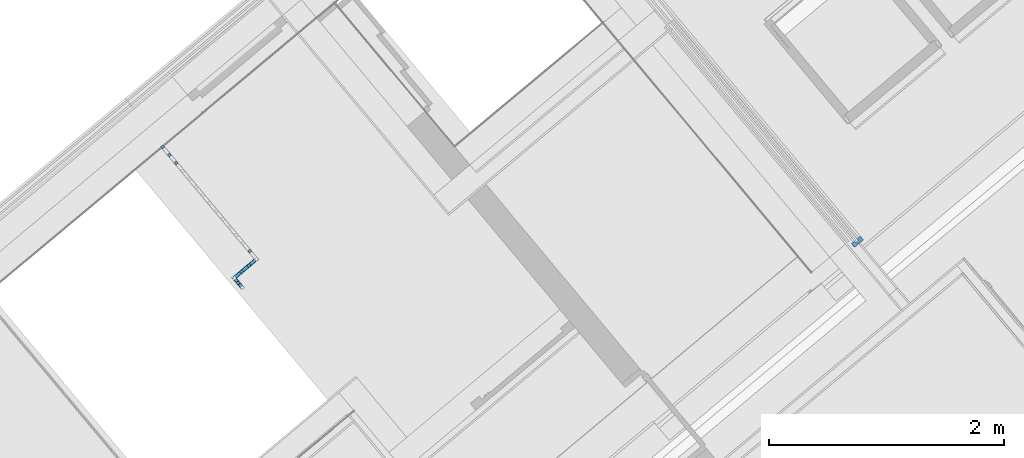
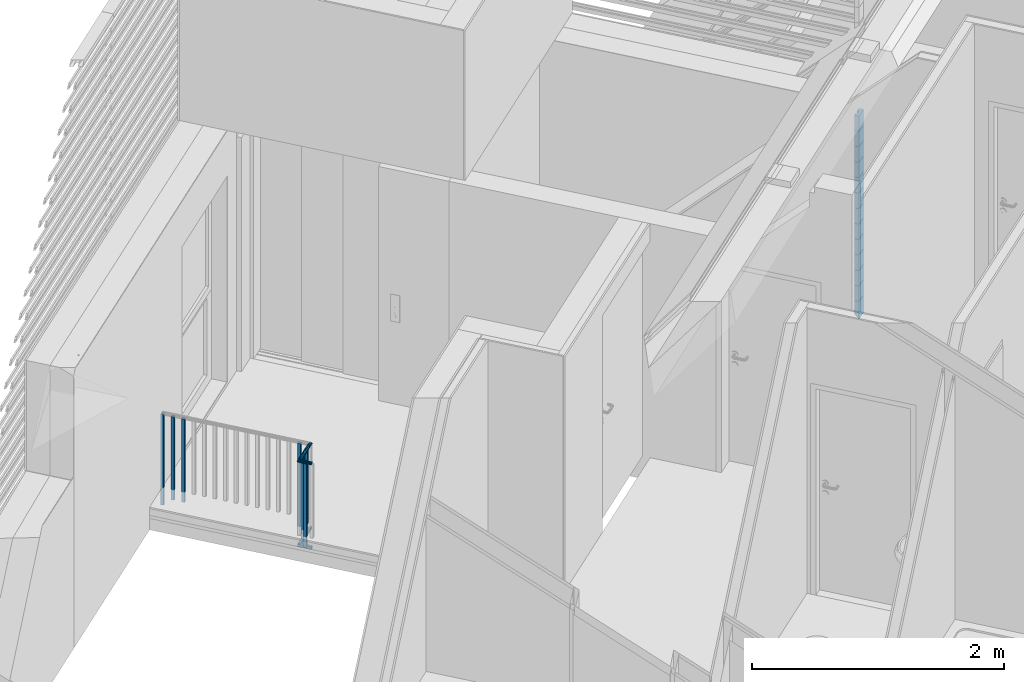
# One storey, part 40 of 47: 24 building element parts, 2 elements without a shape of their own.
"""IFC4 building model written with IfcOpenShell, lengths in metres."""

from ifc_helpers import new_model, entity, si_unit, converted_unit, derived_unit, direction, frame, origin_with_axes, place, context, subcontext, project, spatial, polygons, material, type_object, element, aggregate, save


model = new_model("IFC4")

# Units and contexts
model_context = context("Model", 3, precision=1e-05, world=origin_with_axes(), true_north=direction((0.0, 1.0)))
body_context = subcontext(model_context, "Body", "Model", "MODEL_VIEW")
ifc_project = project(units=[si_unit("LENGTHUNIT", "METRE"), si_unit("AREAUNIT", "SQUARE_METRE"), si_unit("VOLUMEUNIT", "CUBIC_METRE"), converted_unit("PLANEANGLEUNIT", "DEGREE", entity("IfcPlaneAngleMeasure", 0.0174532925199), si_unit("PLANEANGLEUNIT", "RADIAN"), dimensions=[0, 0, 0, 0, 0, 0, 0]), converted_unit("TIMEUNIT", "Year", entity("IfcTimeMeasure", 31556926.0), si_unit("TIMEUNIT", "SECOND"), dimensions=[0, 0, 1, 0, 0, 0, 0]), si_unit("MASSUNIT", "GRAM", prefix="KILO"), si_unit("THERMODYNAMICTEMPERATUREUNIT", "DEGREE_CELSIUS"), si_unit("LUMINOUSINTENSITYUNIT", "LUMEN"), si_unit("ENERGYUNIT", "JOULE", prefix="MEGA"), derived_unit("THERMALCONDUCTANCEUNIT", [(si_unit("POWERUNIT", "WATT"), 1), (si_unit("LENGTHUNIT", "METRE"), -1), (si_unit("THERMODYNAMICTEMPERATUREUNIT", "KELVIN"), -1)]), derived_unit("SPECIFICHEATCAPACITYUNIT", [(si_unit("ENERGYUNIT", "JOULE"), 1), (si_unit("MASSUNIT", "GRAM", prefix="KILO"), -1), (si_unit("THERMODYNAMICTEMPERATUREUNIT", "KELVIN"), -1)]), derived_unit("MASSDENSITYUNIT", [(si_unit("MASSUNIT", "GRAM", prefix="KILO"), 1), (si_unit("VOLUMEUNIT", "CUBIC_METRE"), -1)])], contexts=[model_context])

# Site, building, storey
site_placement = place(None, frame((-0.00153261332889, -0.00661245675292, 0.0), z_axis=(0.0, 0.0, 1.0), x_axis=(1.0, 0.0, 0.0)))
site = spatial("IfcSite", under=ifc_project, at=site_placement, Name="Site", CompositionType="ELEMENT")
building_placement = place(site_placement, origin_with_axes())
building = spatial("IfcBuilding", under=site, at=building_placement, Name="Building", CompositionType="ELEMENT")
storey_placement = place(building_placement, frame((0.0, 0.0, 8.66), z_axis=(0.0, 0.0, 1.0), x_axis=(1.0, 0.0, 0.0)))
storey = spatial("IfcBuildingStorey", under=building, at=storey_placement, Name="DG2", CompositionType="ELEMENT", Elevation=8.66)

# Curtain wall, building element parts
curtain_wall_type = type_object("IfcCurtainWallType", Name="Fassadentyp", PredefinedType="NOTDEFINED")
curtain_wall_placement = place(storey_placement, frame((3.22758193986, 25.8519152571, 0.32), z_axis=(0.0, 0.0, 1.0), x_axis=(1.0, 0.0, 0.0)))
curtain_wall = element("IfcCurtainWall", 1, at=curtain_wall_placement, inside=storey, type_object=curtain_wall_type, Name="Fassade-001", PredefinedType="NOTDEFINED")
ifc_material_1 = material(Name="Blech")
building_element_part_1_placement = place(curtain_wall_placement, origin_with_axes())
building_element_part_1 = element("IfcBuildingElementPart", 2, at=building_element_part_1_placement, material=ifc_material_1, Name="Blech", PredefinedType="NOTDEFINED", context=body_context, shape_type="Tessellation", body=[
    polygons([(1.55485923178, -1.88503623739, 0.15), (1.54203854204, -1.86968599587, 0.15), (1.51517561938, -1.8921222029, 0.15), (1.54081699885, -1.92282268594, 0.15), (1.61756820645, -1.85871923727, 0.15), (1.59192682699, -1.82801875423, 0.15), (1.56506390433, -1.85045496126, 0.15), (1.57788459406, -1.86580520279, 0.15), (1.55485923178, -1.88503623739, 0.0), (1.54203854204, -1.86968599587, 0.02), (1.51517561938, -1.8921222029, 0.02), (1.54081699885, -1.92282268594, -0.02), (1.61756820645, -1.85871923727, -0.02), (1.59192682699, -1.82801875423, 0.02), (1.56506390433, -1.85045496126, 0.02), (1.57788459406, -1.86580520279, 0.0)], [[[1, 2, 3, 4, 5, 6, 7, 8]], [[1, 9, 10, 2]], [[10, 11, 3, 2]], [[3, 11, 12, 4]], [[4, 12, 13, 5]], [[5, 13, 14, 6]], [[7, 6, 14, 15]], [[15, 16, 8, 7]], [[8, 16, 9, 1]], [[9, 16, 15, 14, 13, 12, 11, 10]]], closed=True),
])
building_element_part_2_placement = place(curtain_wall_placement, origin_with_axes())
building_element_part_2 = element("IfcBuildingElementPart", 3, at=building_element_part_2_placement, material=ifc_material_1, Name="Blech", PredefinedType="NOTDEFINED", context=body_context, shape_type="Tessellation", body=[
    polygons([(1.55485923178, -1.88503623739, 0.3), (1.54203854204, -1.86968599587, 0.3), (1.51517561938, -1.8921222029, 0.3), (1.54081699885, -1.92282268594, 0.3), (1.61756820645, -1.85871923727, 0.3), (1.59192682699, -1.82801875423, 0.3), (1.56506390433, -1.85045496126, 0.3), (1.57788459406, -1.86580520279, 0.3), (1.55485923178, -1.88503623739, 0.15), (1.54203854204, -1.86968599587, 0.15), (1.51517561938, -1.8921222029, 0.15), (1.54081699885, -1.92282268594, 0.15), (1.61756820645, -1.85871923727, 0.15), (1.59192682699, -1.82801875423, 0.15), (1.56506390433, -1.85045496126, 0.15), (1.57788459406, -1.86580520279, 0.15)], [[[1, 2, 3, 4, 5, 6, 7, 8]], [[1, 9, 10, 2]], [[10, 11, 3, 2]], [[11, 12, 4, 3]], [[12, 13, 5, 4]], [[13, 14, 6, 5]], [[7, 6, 14, 15]], [[15, 16, 8, 7]], [[8, 16, 9, 1]], [[9, 16, 15, 14, 13, 12, 11, 10]]], closed=True),
])
building_element_part_3_placement = place(curtain_wall_placement, origin_with_axes())
building_element_part_3 = element("IfcBuildingElementPart", 4, at=building_element_part_3_placement, material=ifc_material_1, Name="Blech", PredefinedType="NOTDEFINED", context=body_context, shape_type="Tessellation", body=[
    polygons([(1.55485923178, -1.88503623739, 0.45), (1.54203854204, -1.86968599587, 0.45), (1.51517561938, -1.8921222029, 0.45), (1.54081699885, -1.92282268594, 0.45), (1.61756820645, -1.85871923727, 0.45), (1.59192682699, -1.82801875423, 0.45), (1.56506390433, -1.85045496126, 0.45), (1.57788459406, -1.86580520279, 0.45), (1.55485923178, -1.88503623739, 0.3), (1.54203854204, -1.86968599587, 0.3), (1.51517561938, -1.8921222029, 0.3), (1.54081699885, -1.92282268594, 0.3), (1.61756820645, -1.85871923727, 0.3), (1.59192682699, -1.82801875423, 0.3), (1.56506390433, -1.85045496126, 0.3), (1.57788459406, -1.86580520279, 0.3)], [[[1, 2, 3, 4, 5, 6, 7, 8]], [[1, 9, 10, 2]], [[10, 11, 3, 2]], [[11, 12, 4, 3]], [[12, 13, 5, 4]], [[13, 14, 6, 5]], [[7, 6, 14, 15]], [[15, 16, 8, 7]], [[8, 16, 9, 1]], [[9, 16, 15, 14, 13, 12, 11, 10]]], closed=True),
])
building_element_part_4_placement = place(curtain_wall_placement, origin_with_axes())
building_element_part_4 = element("IfcBuildingElementPart", 5, at=building_element_part_4_placement, material=ifc_material_1, Name="Blech", PredefinedType="NOTDEFINED", context=body_context, shape_type="Tessellation", body=[
    polygons([(1.55485923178, -1.88503623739, 0.6), (1.54203854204, -1.86968599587, 0.6), (1.51517561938, -1.8921222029, 0.6), (1.54081699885, -1.92282268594, 0.6), (1.61756820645, -1.85871923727, 0.6), (1.59192682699, -1.82801875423, 0.6), (1.56506390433, -1.85045496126, 0.6), (1.57788459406, -1.86580520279, 0.6), (1.55485923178, -1.88503623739, 0.45), (1.54203854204, -1.86968599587, 0.45), (1.51517561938, -1.8921222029, 0.45), (1.54081699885, -1.92282268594, 0.45), (1.61756820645, -1.85871923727, 0.45), (1.59192682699, -1.82801875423, 0.45), (1.56506390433, -1.85045496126, 0.45), (1.57788459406, -1.86580520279, 0.45)], [[[1, 2, 3, 4, 5, 6, 7, 8]], [[1, 9, 10, 2]], [[10, 11, 3, 2]], [[11, 12, 4, 3]], [[12, 13, 5, 4]], [[13, 14, 6, 5]], [[7, 6, 14, 15]], [[15, 16, 8, 7]], [[8, 16, 9, 1]], [[9, 16, 15, 14, 13, 12, 11, 10]]], closed=True),
])
building_element_part_5_placement = place(curtain_wall_placement, origin_with_axes())
building_element_part_5 = element("IfcBuildingElementPart", 6, at=building_element_part_5_placement, material=ifc_material_1, Name="Blech", PredefinedType="NOTDEFINED", context=body_context, shape_type="Tessellation", body=[
    polygons([(1.55485923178, -1.88503623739, 0.75), (1.54203854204, -1.86968599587, 0.75), (1.51517561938, -1.8921222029, 0.75), (1.54081699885, -1.92282268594, 0.75), (1.61756820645, -1.85871923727, 0.75), (1.59192682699, -1.82801875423, 0.75), (1.56506390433, -1.85045496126, 0.75), (1.57788459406, -1.86580520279, 0.75), (1.55485923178, -1.88503623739, 0.6), (1.54203854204, -1.86968599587, 0.6), (1.51517561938, -1.8921222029, 0.6), (1.54081699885, -1.92282268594, 0.6), (1.61756820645, -1.85871923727, 0.6), (1.59192682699, -1.82801875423, 0.6), (1.56506390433, -1.85045496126, 0.6), (1.57788459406, -1.86580520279, 0.6)], [[[1, 2, 3, 4, 5, 6, 7, 8]], [[1, 9, 10, 2]], [[10, 11, 3, 2]], [[11, 12, 4, 3]], [[12, 13, 5, 4]], [[13, 14, 6, 5]], [[7, 6, 14, 15]], [[15, 16, 8, 7]], [[8, 16, 9, 1]], [[9, 16, 15, 14, 13, 12, 11, 10]]], closed=True),
])
building_element_part_6_placement = place(curtain_wall_placement, origin_with_axes())
building_element_part_6 = element("IfcBuildingElementPart", 7, at=building_element_part_6_placement, material=ifc_material_1, Name="Blech", PredefinedType="NOTDEFINED", context=body_context, shape_type="Tessellation", body=[
    polygons([(1.55485923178, -1.88503623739, 0.9), (1.54203854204, -1.86968599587, 0.9), (1.51517561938, -1.8921222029, 0.9), (1.54081699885, -1.92282268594, 0.9), (1.61756820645, -1.85871923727, 0.9), (1.59192682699, -1.82801875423, 0.9), (1.56506390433, -1.85045496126, 0.9), (1.57788459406, -1.86580520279, 0.9), (1.55485923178, -1.88503623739, 0.75), (1.54203854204, -1.86968599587, 0.75), (1.51517561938, -1.8921222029, 0.75), (1.54081699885, -1.92282268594, 0.75), (1.61756820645, -1.85871923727, 0.75), (1.59192682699, -1.82801875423, 0.75), (1.56506390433, -1.85045496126, 0.75), (1.57788459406, -1.86580520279, 0.75)], [[[1, 2, 3, 4, 5, 6, 7, 8]], [[1, 9, 10, 2]], [[10, 11, 3, 2]], [[11, 12, 4, 3]], [[12, 13, 5, 4]], [[13, 14, 6, 5]], [[7, 6, 14, 15]], [[15, 16, 8, 7]], [[8, 16, 9, 1]], [[9, 16, 15, 14, 13, 12, 11, 10]]], closed=True),
])
building_element_part_7_placement = place(curtain_wall_placement, origin_with_axes())
building_element_part_7 = element("IfcBuildingElementPart", 8, at=building_element_part_7_placement, material=ifc_material_1, Name="Blech", PredefinedType="NOTDEFINED", context=body_context, shape_type="Tessellation", body=[
    polygons([(1.55485923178, -1.88503623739, 1.05), (1.54203854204, -1.86968599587, 1.05), (1.51517561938, -1.8921222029, 1.05), (1.54081699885, -1.92282268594, 1.05), (1.61756820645, -1.85871923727, 1.05), (1.59192682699, -1.82801875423, 1.05), (1.56506390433, -1.85045496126, 1.05), (1.57788459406, -1.86580520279, 1.05), (1.55485923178, -1.88503623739, 0.9), (1.54203854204, -1.86968599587, 0.9), (1.51517561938, -1.8921222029, 0.9), (1.54081699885, -1.92282268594, 0.9), (1.61756820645, -1.85871923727, 0.9), (1.59192682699, -1.82801875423, 0.9), (1.56506390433, -1.85045496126, 0.9), (1.57788459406, -1.86580520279, 0.9)], [[[1, 2, 3, 4, 5, 6, 7, 8]], [[1, 9, 10, 2]], [[10, 11, 3, 2]], [[11, 12, 4, 3]], [[12, 13, 5, 4]], [[13, 14, 6, 5]], [[7, 6, 14, 15]], [[15, 16, 8, 7]], [[8, 16, 9, 1]], [[9, 16, 15, 14, 13, 12, 11, 10]]], closed=True),
])
building_element_part_8_placement = place(curtain_wall_placement, origin_with_axes())
building_element_part_8 = element("IfcBuildingElementPart", 9, at=building_element_part_8_placement, material=ifc_material_1, Name="Blech", PredefinedType="NOTDEFINED", context=body_context, shape_type="Tessellation", body=[
    polygons([(1.55485923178, -1.88503623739, 1.2), (1.54203854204, -1.86968599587, 1.2), (1.51517561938, -1.8921222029, 1.2), (1.54081699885, -1.92282268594, 1.2), (1.61756820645, -1.85871923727, 1.2), (1.59192682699, -1.82801875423, 1.2), (1.56506390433, -1.85045496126, 1.2), (1.57788459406, -1.86580520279, 1.2), (1.55485923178, -1.88503623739, 1.05), (1.54203854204, -1.86968599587, 1.05), (1.51517561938, -1.8921222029, 1.05), (1.54081699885, -1.92282268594, 1.05), (1.61756820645, -1.85871923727, 1.05), (1.59192682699, -1.82801875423, 1.05), (1.56506390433, -1.85045496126, 1.05), (1.57788459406, -1.86580520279, 1.05)], [[[1, 2, 3, 4, 5, 6, 7, 8]], [[1, 9, 10, 2]], [[10, 11, 3, 2]], [[11, 12, 4, 3]], [[12, 13, 5, 4]], [[13, 14, 6, 5]], [[7, 6, 14, 15]], [[15, 16, 8, 7]], [[8, 16, 9, 1]], [[9, 16, 15, 14, 13, 12, 11, 10]]], closed=True),
])
building_element_part_9_placement = place(curtain_wall_placement, origin_with_axes())
building_element_part_9 = element("IfcBuildingElementPart", 10, at=building_element_part_9_placement, material=ifc_material_1, Name="Blech", PredefinedType="NOTDEFINED", context=body_context, shape_type="Tessellation", body=[
    polygons([(1.55485923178, -1.88503623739, 1.35), (1.54203854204, -1.86968599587, 1.35), (1.51517561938, -1.8921222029, 1.35), (1.54081699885, -1.92282268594, 1.35), (1.61756820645, -1.85871923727, 1.35), (1.59192682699, -1.82801875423, 1.35), (1.56506390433, -1.85045496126, 1.35), (1.57788459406, -1.86580520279, 1.35), (1.55485923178, -1.88503623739, 1.2), (1.54203854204, -1.86968599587, 1.2), (1.51517561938, -1.8921222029, 1.2), (1.54081699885, -1.92282268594, 1.2), (1.61756820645, -1.85871923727, 1.2), (1.59192682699, -1.82801875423, 1.2), (1.56506390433, -1.85045496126, 1.2), (1.57788459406, -1.86580520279, 1.2)], [[[1, 2, 3, 4, 5, 6, 7, 8]], [[1, 9, 10, 2]], [[10, 11, 3, 2]], [[11, 12, 4, 3]], [[12, 13, 5, 4]], [[13, 14, 6, 5]], [[7, 6, 14, 15]], [[15, 16, 8, 7]], [[8, 16, 9, 1]], [[9, 16, 15, 14, 13, 12, 11, 10]]], closed=True),
])
building_element_part_10_placement = place(curtain_wall_placement, origin_with_axes())
building_element_part_10 = element("IfcBuildingElementPart", 11, at=building_element_part_10_placement, material=ifc_material_1, Name="Blech", PredefinedType="NOTDEFINED", context=body_context, shape_type="Tessellation", body=[
    polygons([(1.55485923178, -1.88503623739, 1.5), (1.54203854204, -1.86968599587, 1.5), (1.51517561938, -1.8921222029, 1.5), (1.54081699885, -1.92282268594, 1.5), (1.61756820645, -1.85871923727, 1.5), (1.59192682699, -1.82801875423, 1.5), (1.56506390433, -1.85045496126, 1.5), (1.57788459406, -1.86580520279, 1.5), (1.55485923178, -1.88503623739, 1.35), (1.54203854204, -1.86968599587, 1.35), (1.51517561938, -1.8921222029, 1.35), (1.54081699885, -1.92282268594, 1.35), (1.61756820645, -1.85871923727, 1.35), (1.59192682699, -1.82801875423, 1.35), (1.56506390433, -1.85045496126, 1.35), (1.57788459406, -1.86580520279, 1.35)], [[[1, 2, 3, 4, 5, 6, 7, 8]], [[1, 9, 10, 2]], [[10, 11, 3, 2]], [[11, 12, 4, 3]], [[12, 13, 5, 4]], [[13, 14, 6, 5]], [[7, 6, 14, 15]], [[15, 16, 8, 7]], [[8, 16, 9, 1]], [[9, 16, 15, 14, 13, 12, 11, 10]]], closed=True),
])
building_element_part_11_placement = place(curtain_wall_placement, origin_with_axes())
building_element_part_11 = element("IfcBuildingElementPart", 12, at=building_element_part_11_placement, material=ifc_material_1, Name="Blech", PredefinedType="NOTDEFINED", context=body_context, shape_type="Tessellation", body=[
    polygons([(1.55485923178, -1.88503623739, 1.65), (1.54203854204, -1.86968599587, 1.65), (1.51517561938, -1.8921222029, 1.65), (1.54081699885, -1.92282268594, 1.65), (1.61756820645, -1.85871923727, 1.65), (1.59192682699, -1.82801875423, 1.65), (1.56506390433, -1.85045496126, 1.65), (1.57788459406, -1.86580520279, 1.65), (1.55485923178, -1.88503623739, 1.5), (1.54203854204, -1.86968599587, 1.5), (1.51517561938, -1.8921222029, 1.5), (1.54081699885, -1.92282268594, 1.5), (1.61756820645, -1.85871923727, 1.5), (1.59192682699, -1.82801875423, 1.5), (1.56506390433, -1.85045496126, 1.5), (1.57788459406, -1.86580520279, 1.5)], [[[1, 2, 3, 4, 5, 6, 7, 8]], [[1, 9, 10, 2]], [[10, 11, 3, 2]], [[11, 12, 4, 3]], [[12, 13, 5, 4]], [[13, 14, 6, 5]], [[7, 6, 14, 15]], [[15, 16, 8, 7]], [[8, 16, 9, 1]], [[9, 16, 15, 14, 13, 12, 11, 10]]], closed=True),
])
building_element_part_12_placement = place(curtain_wall_placement, origin_with_axes())
building_element_part_12 = element("IfcBuildingElementPart", 13, at=building_element_part_12_placement, material=ifc_material_1, Name="Blech", PredefinedType="NOTDEFINED", context=body_context, shape_type="Tessellation", body=[
    polygons([(1.55485923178, -1.88503623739, 1.8), (1.54203854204, -1.86968599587, 1.8), (1.51517561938, -1.8921222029, 1.8), (1.54081699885, -1.92282268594, 1.8), (1.61756820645, -1.85871923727, 1.8), (1.59192682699, -1.82801875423, 1.8), (1.56506390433, -1.85045496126, 1.8), (1.57788459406, -1.86580520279, 1.8), (1.55485923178, -1.88503623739, 1.65), (1.54203854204, -1.86968599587, 1.65), (1.51517561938, -1.8921222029, 1.65), (1.54081699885, -1.92282268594, 1.65), (1.61756820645, -1.85871923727, 1.65), (1.59192682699, -1.82801875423, 1.65), (1.56506390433, -1.85045496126, 1.65), (1.57788459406, -1.86580520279, 1.65)], [[[1, 2, 3, 4, 5, 6, 7, 8]], [[1, 9, 10, 2]], [[10, 11, 3, 2]], [[11, 12, 4, 3]], [[12, 13, 5, 4]], [[13, 14, 6, 5]], [[7, 6, 14, 15]], [[15, 16, 8, 7]], [[8, 16, 9, 1]], [[9, 16, 15, 14, 13, 12, 11, 10]]], closed=True),
])
building_element_part_13_placement = place(curtain_wall_placement, origin_with_axes())
building_element_part_13 = element("IfcBuildingElementPart", 14, at=building_element_part_13_placement, material=ifc_material_1, Name="Blech", PredefinedType="NOTDEFINED", context=body_context, shape_type="Tessellation", body=[
    polygons([(1.55485923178, -1.88503623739, 1.95), (1.54203854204, -1.86968599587, 1.95), (1.51517561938, -1.8921222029, 1.95), (1.54081699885, -1.92282268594, 1.95), (1.61756820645, -1.85871923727, 1.95), (1.59192682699, -1.82801875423, 1.95), (1.56506390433, -1.85045496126, 1.95), (1.57788459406, -1.86580520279, 1.95), (1.55485923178, -1.88503623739, 1.8), (1.54203854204, -1.86968599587, 1.8), (1.51517561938, -1.8921222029, 1.8), (1.54081699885, -1.92282268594, 1.8), (1.61756820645, -1.85871923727, 1.8), (1.59192682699, -1.82801875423, 1.8), (1.56506390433, -1.85045496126, 1.8), (1.57788459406, -1.86580520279, 1.8)], [[[1, 2, 3, 4, 5, 6, 7, 8]], [[1, 9, 10, 2]], [[10, 11, 3, 2]], [[11, 12, 4, 3]], [[12, 13, 5, 4]], [[13, 14, 6, 5]], [[7, 6, 14, 15]], [[15, 16, 8, 7]], [[8, 16, 9, 1]], [[9, 16, 15, 14, 13, 12, 11, 10]]], closed=True),
])
aggregate(curtain_wall, [building_element_part_1, building_element_part_2, building_element_part_3, building_element_part_4, building_element_part_5, building_element_part_6, building_element_part_7, building_element_part_8, building_element_part_9, building_element_part_10, building_element_part_11, building_element_part_12, building_element_part_13])

# Railing, building element parts
railing_type = type_object("IfcRailingType", Name="Geländerart", PredefinedType="NOTDEFINED")
railing_placement = place(storey_placement, frame((-1.1650889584, 24.7530172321, 0.05), z_axis=(0.0, 0.0, 1.0), x_axis=(1.0, 0.0, 0.0)))
railing = element("IfcRailing", 15, at=railing_placement, inside=storey, type_object=railing_type, Name="Geländer - 001", PredefinedType="NOTDEFINED")
ifc_material_2 = material(Name="BEKLEIDUNG")
building_element_part_14_placement = place(railing_placement, origin_with_axes())
building_element_part_14 = element("IfcBuildingElementPart", 16, at=building_element_part_14_placement, material=ifc_material_2, Name="BEKLEIDUNG", PredefinedType="NOTDEFINED", context=body_context, shape_type="Tessellation", body=[
    polygons([(0.0367920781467, 0.0144514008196, 0.0), (0.0559770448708, 0.0304806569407, 0.0), (0.0559770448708, 0.0304806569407, 0.88), (0.0367920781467, 0.0144514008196, 0.88), (0.0207628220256, 0.0336363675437, 0.0), (0.0399477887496, 0.0496656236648, 0.0), (0.0399477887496, 0.0496656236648, 0.88), (0.0207628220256, 0.0336363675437, 0.88)], [[[1, 2, 3, 4]], [[1, 5, 6, 2]], [[2, 6, 7, 3]], [[4, 3, 7, 8]], [[5, 1, 4, 8]], [[6, 5, 8, 7]]], closed=True),
])
building_element_part_15_placement = place(railing_placement, origin_with_axes())
building_element_part_15 = element("IfcBuildingElementPart", 17, at=building_element_part_15_placement, material=ifc_material_2, Name="BEKLEIDUNG", PredefinedType="NOTDEFINED", context=body_context, shape_type="Tessellation", body=[
    polygons([(0.0938886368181, -0.0538858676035, 0.07), (0.113073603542, -0.0378566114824, 0.07), (0.113073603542, -0.0378566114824, 0.8775), (0.0938886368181, -0.0538858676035, 0.8775), (0.077859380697, -0.0347009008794, 0.07), (0.0970443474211, -0.0186716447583, 0.07), (0.0970443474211, -0.0186716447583, 0.8775), (0.077859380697, -0.0347009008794, 0.8775)], [[[1, 2, 3, 4]], [[1, 5, 6, 2]], [[2, 6, 7, 3]], [[4, 3, 7, 8]], [[5, 1, 4, 8]], [[6, 5, 8, 7]]], closed=True),
])
building_element_part_16_placement = place(railing_placement, origin_with_axes())
building_element_part_16 = element("IfcBuildingElementPart", 18, at=building_element_part_16_placement, material=ifc_material_2, Name="BEKLEIDUNG", PredefinedType="NOTDEFINED", context=body_context, shape_type="Tessellation", body=[
    polygons([(0.15098519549, -0.122223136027, 0.07), (0.170170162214, -0.106193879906, 0.07), (0.170170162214, -0.106193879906, 0.8775), (0.15098519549, -0.122223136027, 0.8775), (0.134955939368, -0.103038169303, 0.07), (0.154140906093, -0.0870089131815, 0.07), (0.154140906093, -0.0870089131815, 0.8775), (0.134955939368, -0.103038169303, 0.8775)], [[[1, 2, 3, 4]], [[1, 5, 6, 2]], [[2, 6, 7, 3]], [[4, 3, 7, 8]], [[5, 1, 4, 8]], [[6, 5, 8, 7]]], closed=True),
])
building_element_part_17_placement = place(railing_placement, origin_with_axes())
building_element_part_17 = element("IfcBuildingElementPart", 19, at=building_element_part_17_placement, material=ifc_material_2, Name="BEKLEIDUNG", PredefinedType="NOTDEFINED", context=body_context, shape_type="Tessellation", body=[
    polygons([(0.779047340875, -0.873933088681, 0.07), (0.7982323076, -0.85790383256, 0.07), (0.7982323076, -0.85790383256, 0.8775), (0.779047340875, -0.873933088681, 0.8775), (0.763018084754, -0.854748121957, 0.07), (0.782203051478, -0.838718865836, 0.07), (0.782203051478, -0.838718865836, 0.8775), (0.763018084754, -0.854748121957, 0.8775)], [[[1, 2, 3, 4]], [[1, 5, 6, 2]], [[2, 6, 7, 3]], [[4, 3, 7, 8]], [[5, 1, 4, 8]], [[6, 5, 8, 7]]], closed=True),
])
building_element_part_18_placement = place(railing_placement, origin_with_axes())
building_element_part_18 = element("IfcBuildingElementPart", 20, at=building_element_part_18_placement, material=ifc_material_2, Name="BEKLEIDUNG", PredefinedType="NOTDEFINED", context=body_context, shape_type="Tessellation", body=[
    polygons([(0.858808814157, -0.9265070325, 0.885), (0.858488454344, -0.926479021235, 0.887604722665), (0.668377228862, -1.08671929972, 0.887604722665), (0.668698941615, -1.08674617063, 0.885), (0.858488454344, -0.926479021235, 0.882395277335), (0.857537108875, -0.926395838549, 0.87986969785), (0.855983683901, -0.926260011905, 0.8775), (0.853875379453, -0.926075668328, 0.875358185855), (0.851276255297, -0.925848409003, 0.873509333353), (0.848265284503, -0.925585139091, 0.872009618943), (0.844933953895, -0.925293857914, 0.870904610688), (0.84138348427, -0.924983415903, 0.870227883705), (0.837721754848, -0.924663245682, 0.87), (0.834060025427, -0.924343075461, 0.870227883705), (0.830509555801, -0.92403263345, 0.870904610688), (0.827178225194, -0.923741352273, 0.872009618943), (0.8241672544, -0.92347808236, 0.873509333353), (0.821568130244, -0.923250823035, 0.875358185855), (0.819459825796, -0.923066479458, 0.8775), (0.817906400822, -0.922930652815, 0.87986969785), (0.816955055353, -0.922847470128, 0.882395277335), (0.81663469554, -0.922819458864, 0.885), (0.816955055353, -0.922847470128, 0.887604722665), (0.817906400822, -0.922930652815, 0.89013030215), (0.819459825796, -0.923066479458, 0.8925), (0.821568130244, -0.923250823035, 0.894641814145), (0.8241672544, -0.92347808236, 0.896490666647), (0.827178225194, -0.923741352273, 0.897990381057), (0.830509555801, -0.92403263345, 0.899095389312), (0.834060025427, -0.924343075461, 0.899772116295), (0.837721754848, -0.924663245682, 0.9), (0.84138348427, -0.924983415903, 0.899772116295), (0.844933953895, -0.925293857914, 0.899095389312), (0.848265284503, -0.925585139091, 0.897990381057), (0.851276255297, -0.925848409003, 0.896490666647), (0.853875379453, -0.926075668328, 0.894641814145), (0.855983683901, -0.926260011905, 0.8925), (0.857537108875, -0.926395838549, 0.89013030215), (0.667421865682, -1.08663950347, 0.89013030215), (0.665861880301, -1.08650920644, 0.8925), (0.663744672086, -1.08633236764, 0.894641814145), (0.661134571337, -1.08611436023, 0.896490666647), (0.658110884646, -1.08586180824, 0.897990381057), (0.654765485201, -1.08558238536, 0.899095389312), (0.651200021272, -1.08528458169, 0.899772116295), (0.647522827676, -1.08497744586, 0.9), (0.64384563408, -1.08467031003, 0.899772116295), (0.640280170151, -1.08437250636, 0.899095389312), (0.636934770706, -1.08409308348, 0.897990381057), (0.633911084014, -1.0838405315, 0.896490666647), (0.631300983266, -1.08362252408, 0.894641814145), (0.629183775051, -1.08344568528, 0.8925), (0.62762378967, -1.08331538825, 0.89013030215), (0.62666842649, -1.083235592, 0.887604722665), (0.626346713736, -1.0832087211, 0.885), (0.62666842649, -1.083235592, 0.882395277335), (0.62762378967, -1.08331538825, 0.87986969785), (0.629183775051, -1.08344568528, 0.8775), (0.631300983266, -1.08362252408, 0.875358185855), (0.633911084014, -1.0838405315, 0.873509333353), (0.636934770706, -1.08409308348, 0.872009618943), (0.640280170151, -1.08437250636, 0.870904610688), (0.64384563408, -1.08467031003, 0.870227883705), (0.647522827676, -1.08497744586, 0.87), (0.651200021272, -1.08528458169, 0.870227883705), (0.654765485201, -1.08558238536, 0.870904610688), (0.658110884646, -1.08586180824, 0.872009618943), (0.661134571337, -1.08611436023, 0.873509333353), (0.663744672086, -1.08633236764, 0.875358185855), (0.665861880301, -1.08650920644, 0.8775), (0.667421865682, -1.08663950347, 0.87986969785), (0.668377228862, -1.08671929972, 0.882395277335)], [[[1, 2, 3, 4]], [[1, 5, 6, 7, 8, 9, 10, 11, 12, 13, 14, 15, 16, 17, 18, 19, 20, 21, 22, 23, 24, 25, 26, 27, 28, 29, 30, 31, 32, 33, 34, 35, 36, 37, 38, 2]], [[2, 38, 39, 3]], [[4, 3, 39, 40, 41, 42, 43, 44, 45, 46, 47, 48, 49, 50, 51, 52, 53, 54, 55, 56, 57, 58, 59, 60, 61, 62, 63, 64, 65, 66, 67, 68, 69, 70, 71, 72]], [[5, 1, 4, 72]], [[6, 5, 72, 71]], [[7, 6, 71, 70]], [[8, 7, 70, 69]], [[9, 8, 69, 68]], [[10, 9, 68, 67]], [[11, 10, 67, 66]], [[12, 11, 66, 65]], [[13, 12, 65, 64]], [[14, 13, 64, 63]], [[15, 14, 63, 62]], [[16, 15, 62, 61]], [[17, 16, 61, 60]], [[18, 17, 60, 59]], [[19, 18, 59, 58]], [[20, 19, 58, 57]], [[21, 20, 57, 56]], [[22, 21, 56, 55]], [[23, 22, 55, 54]], [[24, 23, 54, 53]], [[25, 24, 53, 52]], [[26, 25, 52, 51]], [[27, 26, 51, 50]], [[28, 27, 50, 49]], [[29, 28, 49, 48]], [[30, 29, 48, 47]], [[31, 30, 47, 46]], [[32, 31, 46, 45]], [[33, 32, 45, 44]], [[34, 33, 44, 43]], [[35, 34, 43, 42]], [[36, 35, 42, 41]], [[37, 36, 41, 40]], [[38, 37, 40, 39]]], closed=True),
])
building_element_part_19_placement = place(railing_placement, origin_with_axes())
building_element_part_19 = element("IfcBuildingElementPart", 21, at=building_element_part_19_placement, material=ifc_material_2, Name="BEKLEIDUNG", PredefinedType="NOTDEFINED", context=body_context, shape_type="Tessellation", body=[
    polygons([(0.820149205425, -0.923126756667, 0.0825), (0.820149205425, -0.923126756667, 0.0575), (0.62987606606, -1.08350350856, 0.0575), (0.62987606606, -1.08350350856, 0.0825), (0.855294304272, -0.926199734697, 0.0825), (0.855294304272, -0.926199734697, 0.0575), (0.665169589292, -1.08645138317, 0.0575), (0.665169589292, -1.08645138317, 0.0825)], [[[1, 2, 3, 4]], [[1, 5, 6, 2]], [[2, 6, 7, 3]], [[4, 3, 7, 8]], [[5, 1, 4, 8]], [[6, 5, 8, 7]]], closed=True),
])
building_element_part_20_placement = place(railing_placement, origin_with_axes())
building_element_part_20 = element("IfcBuildingElementPart", 22, at=building_element_part_20_placement, material=ifc_material_2, Name="BEKLEIDUNG", PredefinedType="NOTDEFINED", context=body_context, shape_type="Tessellation", body=[
    polygons([(0.756708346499, -0.976599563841, 0.07), (0.77282036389, -0.995715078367, 0.07), (0.77282036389, -0.995715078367, 0.8775), (0.756708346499, -0.976599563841, 0.8775), (0.775823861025, -0.96048754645, 0.07), (0.791935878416, -0.979603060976, 0.07), (0.791935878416, -0.979603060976, 0.8775), (0.775823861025, -0.96048754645, 0.8775)], [[[1, 2, 3, 4]], [[1, 5, 6, 2]], [[2, 6, 7, 3]], [[4, 3, 7, 8]], [[5, 1, 4, 8]], [[6, 5, 8, 7]]], closed=True),
])
building_element_part_21_placement = place(railing_placement, origin_with_axes())
building_element_part_21 = element("IfcBuildingElementPart", 23, at=building_element_part_21_placement, material=ifc_material_2, Name="BEKLEIDUNG", PredefinedType="NOTDEFINED", context=body_context, shape_type="Tessellation", body=[
    polygons([(0.693308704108, -1.03003763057, 0.07), (0.709420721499, -1.04915314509, 0.07), (0.709420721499, -1.04915314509, 0.8775), (0.693308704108, -1.03003763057, 0.8775), (0.712424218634, -1.01392561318, 0.07), (0.728536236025, -1.0330411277, 0.07), (0.728536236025, -1.0330411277, 0.8775), (0.712424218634, -1.01392561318, 0.8775)], [[[1, 2, 3, 4]], [[1, 5, 6, 2]], [[2, 6, 7, 3]], [[4, 3, 7, 8]], [[5, 1, 4, 8]], [[6, 5, 8, 7]]], closed=True),
])
building_element_part_22_placement = place(railing_placement, origin_with_axes())
building_element_part_22 = element("IfcBuildingElementPart", 24, at=building_element_part_22_placement, material=ifc_material_2, Name="BEKLEIDUNG", PredefinedType="NOTDEFINED", context=body_context, shape_type="Tessellation", body=[
    polygons([(0.668698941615, -1.08674617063, 0.885), (0.668377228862, -1.08671929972, 0.887604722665), (0.728170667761, -1.15716494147, 0.887604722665), (0.728344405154, -1.1570174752, 0.885), (0.668377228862, -1.08671929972, 0.882395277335), (0.667421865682, -1.08663950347, 0.87986969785), (0.665861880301, -1.08650920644, 0.8775), (0.663744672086, -1.08633236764, 0.875358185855), (0.661134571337, -1.08611436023, 0.873509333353), (0.658110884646, -1.08586180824, 0.872009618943), (0.654765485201, -1.08558238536, 0.870904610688), (0.651200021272, -1.08528458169, 0.870227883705), (0.647522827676, -1.08497744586, 0.87), (0.64384563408, -1.08467031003, 0.870227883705), (0.640280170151, -1.08437250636, 0.870904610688), (0.636934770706, -1.08409308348, 0.872009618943), (0.633911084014, -1.0838405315, 0.873509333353), (0.631300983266, -1.08362252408, 0.875358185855), (0.629183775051, -1.08344568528, 0.8775), (0.62762378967, -1.08331538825, 0.87986969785), (0.62666842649, -1.083235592, 0.882395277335), (0.626346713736, -1.0832087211, 0.885), (0.62666842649, -1.083235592, 0.887604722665), (0.62762378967, -1.08331538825, 0.89013030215), (0.629183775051, -1.08344568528, 0.8925), (0.631300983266, -1.08362252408, 0.894641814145), (0.633911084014, -1.0838405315, 0.896490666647), (0.636934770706, -1.08409308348, 0.897990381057), (0.640280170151, -1.08437250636, 0.899095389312), (0.64384563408, -1.08467031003, 0.899772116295), (0.647522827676, -1.08497744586, 0.9), (0.651200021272, -1.08528458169, 0.899772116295), (0.654765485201, -1.08558238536, 0.899095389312), (0.658110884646, -1.08586180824, 0.897990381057), (0.661134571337, -1.08611436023, 0.896490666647), (0.663744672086, -1.08633236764, 0.894641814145), (0.665861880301, -1.08650920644, 0.8925), (0.667421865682, -1.08663950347, 0.89013030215), (0.727654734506, -1.1576028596, 0.89013030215), (0.72681228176, -1.15831792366, 0.8925), (0.725668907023, -1.1592884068, 0.894641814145), (0.724259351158, -1.16048482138, 0.896490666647), (0.722626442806, -1.16187081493, 0.897990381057), (0.720819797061, -1.16340427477, 0.899095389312), (0.718894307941, -1.16503860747, 0.899772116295), (0.716908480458, -1.16672415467, 0.9), (0.714922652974, -1.16840970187, 0.899772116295), (0.712997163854, -1.17004403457, 0.899095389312), (0.71119051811, -1.17157749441, 0.897990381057), (0.709557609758, -1.17296348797, 0.896490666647), (0.708148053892, -1.17415990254, 0.894641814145), (0.707004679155, -1.17513038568, 0.8925), (0.706162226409, -1.17584544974, 0.89013030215), (0.705646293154, -1.17628336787, 0.887604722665), (0.705472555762, -1.17643083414, 0.885), (0.705646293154, -1.17628336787, 0.882395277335), (0.706162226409, -1.17584544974, 0.87986969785), (0.707004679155, -1.17513038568, 0.8775), (0.708148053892, -1.17415990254, 0.875358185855), (0.709557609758, -1.17296348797, 0.873509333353), (0.71119051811, -1.17157749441, 0.872009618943), (0.712997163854, -1.17004403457, 0.870904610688), (0.714922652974, -1.16840970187, 0.870227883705), (0.716908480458, -1.16672415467, 0.87), (0.718894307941, -1.16503860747, 0.870227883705), (0.720819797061, -1.16340427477, 0.870904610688), (0.722626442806, -1.16187081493, 0.872009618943), (0.724259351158, -1.16048482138, 0.873509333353), (0.725668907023, -1.1592884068, 0.875358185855), (0.72681228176, -1.15831792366, 0.8775), (0.727654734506, -1.1576028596, 0.87986969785), (0.728170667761, -1.15716494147, 0.882395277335)], [[[1, 2, 3, 4]], [[1, 5, 6, 7, 8, 9, 10, 11, 12, 13, 14, 15, 16, 17, 18, 19, 20, 21, 22, 23, 24, 25, 26, 27, 28, 29, 30, 31, 32, 33, 34, 35, 36, 37, 38, 2]], [[2, 38, 39, 3]], [[4, 3, 39, 40, 41, 42, 43, 44, 45, 46, 47, 48, 49, 50, 51, 52, 53, 54, 55, 56, 57, 58, 59, 60, 61, 62, 63, 64, 65, 66, 67, 68, 69, 70, 71, 72]], [[5, 1, 4, 72]], [[6, 5, 72, 71]], [[7, 6, 71, 70]], [[8, 7, 70, 69]], [[9, 8, 69, 68]], [[10, 9, 68, 67]], [[11, 10, 67, 66]], [[12, 11, 66, 65]], [[13, 12, 65, 64]], [[14, 13, 64, 63]], [[15, 14, 63, 62]], [[16, 15, 62, 61]], [[17, 16, 61, 60]], [[18, 17, 60, 59]], [[19, 18, 59, 58]], [[20, 19, 58, 57]], [[21, 20, 57, 56]], [[22, 21, 56, 55]], [[23, 22, 55, 54]], [[24, 23, 54, 53]], [[25, 24, 53, 52]], [[26, 25, 52, 51]], [[27, 26, 51, 50]], [[28, 27, 50, 49]], [[29, 28, 49, 48]], [[30, 29, 48, 47]], [[31, 30, 47, 46]], [[32, 31, 46, 45]], [[33, 32, 45, 44]], [[34, 33, 44, 43]], [[35, 34, 43, 42]], [[36, 35, 42, 41]], [[37, 36, 41, 40]], [[38, 37, 40, 39]]], closed=True),
])
building_element_part_23_placement = place(railing_placement, origin_with_axes())
building_element_part_23 = element("IfcBuildingElementPart", 25, at=building_element_part_23_placement, material=ifc_material_2, Name="BEKLEIDUNG", PredefinedType="NOTDEFINED", context=body_context, shape_type="Tessellation", body=[
    polygons([(0.62987606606, -1.08350350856, 0.0825), (0.62987606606, -1.08350350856, 0.0575), (0.707378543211, -1.17481305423, 0.0575), (0.707378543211, -1.17481305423, 0.0825), (0.665169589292, -1.08645138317, 0.0825), (0.665169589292, -1.08645138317, 0.0575), (0.726438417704, -1.15863525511, 0.0575), (0.726438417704, -1.15863525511, 0.0825)], [[[1, 2, 3, 4]], [[1, 5, 6, 2]], [[2, 6, 7, 3]], [[4, 3, 7, 8]], [[5, 1, 4, 8]], [[6, 5, 8, 7]]], closed=True),
])
building_element_part_24_placement = place(railing_placement, origin_with_axes())
building_element_part_24 = element("IfcBuildingElementPart", 26, at=building_element_part_24_placement, material=ifc_material_2, Name="BEKLEIDUNG", PredefinedType="NOTDEFINED", context=body_context, shape_type="Tessellation", body=[
    polygons([(0.680774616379, -1.14346963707, 0.07), (0.699834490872, -1.12729183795, 0.07), (0.699834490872, -1.12729183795, 0.8775), (0.680774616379, -1.14346963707, 0.8775), (0.664596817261, -1.12440976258, 0.07), (0.683656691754, -1.10823196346, 0.07), (0.683656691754, -1.10823196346, 0.8775), (0.664596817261, -1.12440976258, 0.8775)], [[[1, 2, 3, 4]], [[1, 5, 6, 2]], [[2, 6, 7, 3]], [[4, 3, 7, 8]], [[5, 1, 4, 8]], [[6, 5, 8, 7]]], closed=True),
])
aggregate(railing, [building_element_part_14, building_element_part_15, building_element_part_16, building_element_part_17, building_element_part_18, building_element_part_19, building_element_part_20, building_element_part_21, building_element_part_22, building_element_part_23, building_element_part_24])

save(model, "model.ifc")
